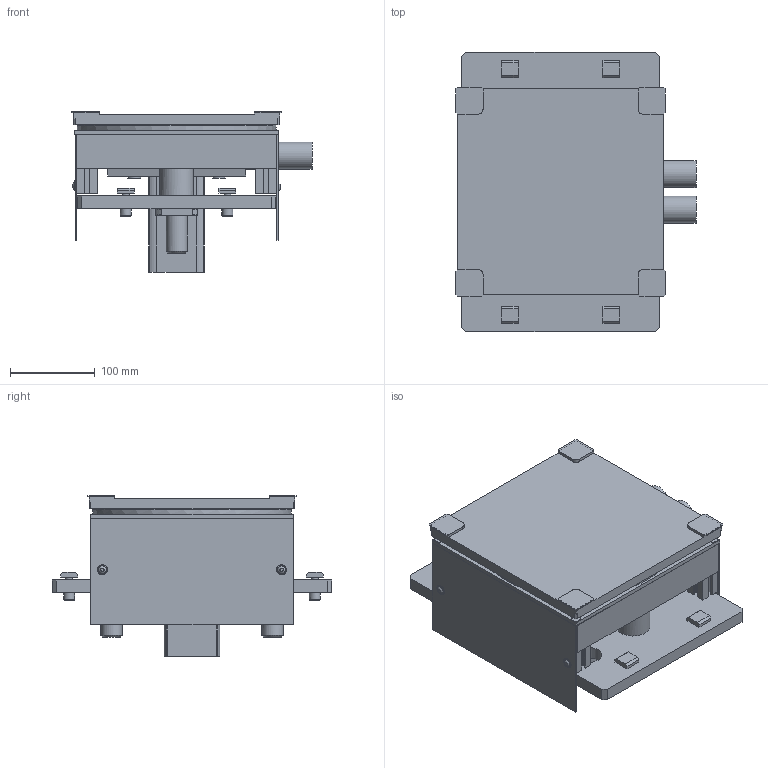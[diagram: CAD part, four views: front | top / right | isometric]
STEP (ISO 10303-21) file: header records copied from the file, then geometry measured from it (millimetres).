
FILE_DESCRIPTION(/* description */ (''),/* implementation_level */ '2;1');
FILE_NAME(/* name */ 'C:\Marketing\01_Versamove-SPU_STEP-Dateien-Homepage\VersamoveStandard\B320\Step-Dateien\Hubdreheinheit_HDE-2045_B320.stp',/* time_stamp */ '2016-12-19T14:25:20+01:00',/* author */ ('herbert.engels'),/* organization */ (''),/* preprocessor_version */ 'ST-DEVELOPER v15.6',/* originating_system */ 'Autodesk Inventor 2015',/* authorisation */ '');
FILE_SCHEMA (('CONFIG_CONTROL_DESIGN'));
Length unit declared in the file: millimetre
Products named in the file (1): Hubdreheinheit_HDE-2045_B320
Bounding box: 283.3 x 330 x 189.35 mm (x, y, z)
Volume: 4216547.9 mm3; surface area: 717181.2 mm2
Topology: 1 solids, 2 shells, 649 faces, 1783 edges, 1165 vertices
Faces by surface type: plane 463, cylinder 118, cone 51, torus 13, sphere 4
Full cylindrical faces by diameter (mm): 4 x4, 5 x12, 5.9 x1, 6.5 x4, 8 x4, 10 x4, 10.5 x1, 10.917 x3, 11.8 x4, 13 x4, 15 x3, 25 x4, 26.5 x2, 29 x2, 30 x2, 31.9 x4, 40 x2, 54.2 x1, 55 x1, 81 x1, 235 x1
Entity records: 20398 total; most frequent: CARTESIAN_POINT 3640, ORIENTED_EDGE 3250, DIRECTION 3146, EDGE_CURVE 1625, LINE 1188, VECTOR 1188, VERTEX_POINT 1117, AXIS2_PLACEMENT_3D 979
